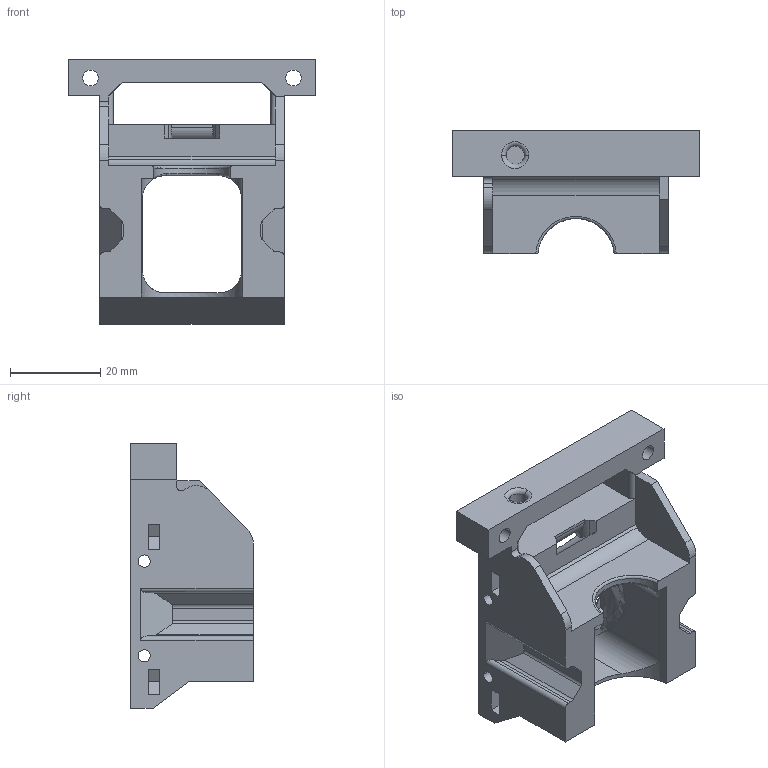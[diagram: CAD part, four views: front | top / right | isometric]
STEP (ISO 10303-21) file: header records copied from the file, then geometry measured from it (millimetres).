
FILE_DESCRIPTION(('CATIA V5 STEP Exchange'),'2;1');
FILE_NAME('C:\Users\Bruno-Win\Desktop\V2.1 Head\HYPERCUBE-EVO-0007_NGEN_V2.1_40.stp','2021-03-26T07:37:09+00:00',('none'),('none'),'CATIA Version 5-6 Release 2017','CATIA V5 STEP AP203','none');
FILE_SCHEMA(('CONFIG_CONTROL_DESIGN'));
Length unit declared in the file: millimetre
Products named in the file (1): HYPERCUBE-EVO-0007_NGEN_V2_40
Bounding box: 55 x 27.22 x 58.6 mm (x, y, z)
Volume: 21114.2 mm3; surface area: 12345.3 mm2
Topology: 1 solids, 1 shells, 237 faces, 659 edges, 432 vertices
Faces by surface type: plane 128, cylinder 70, bspline 22, torus 14, cone 3
Entity records: 8949 total; most frequent: CARTESIAN_POINT 3451, ORIENTED_EDGE 1310, DIRECTION 791, EDGE_CURVE 655, VERTEX_POINT 427, VECTOR 377, LINE 377, AXIS2_PLACEMENT_3D 281
